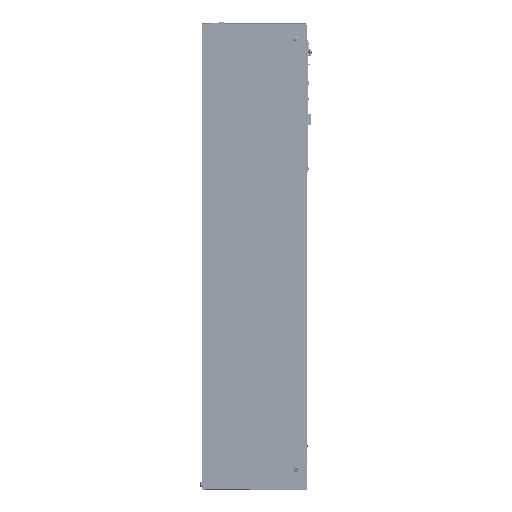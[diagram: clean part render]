
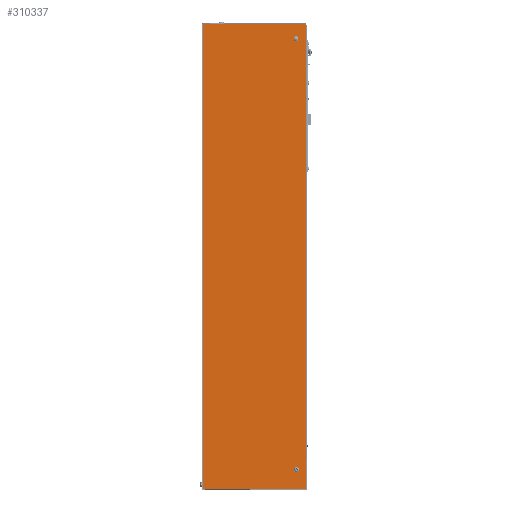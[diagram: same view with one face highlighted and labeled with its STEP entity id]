
A CAD part, top view. The second image highlights one B-rep face of the part: STEP entity #310337.
In plain terms, the highlighted planar face has unit normal (0, 0, 1).
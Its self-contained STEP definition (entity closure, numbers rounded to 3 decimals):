
#1574 = VERTEX_POINT ( 'NONE', #216408 ) ;
#4051 = VERTEX_POINT ( 'NONE', #260119 ) ;
#16707 = AXIS2_PLACEMENT_3D ( 'NONE', #418670, #224861, #564997 ) ;
#16833 = VERTEX_POINT ( 'NONE', #237093 ) ;
#17234 = CARTESIAN_POINT ( 'NONE',  ( 313.531, -428.767, 233.328 ) ) ;
#39128 = ORIENTED_EDGE ( 'NONE', *, *, #437766, .T. ) ;
#45165 = VERTEX_POINT ( 'NONE', #276948 ) ;
#59672 = DIRECTION ( 'NONE',  ( 0., 0., 1. ) ) ;
#70260 = VERTEX_POINT ( 'NONE', #313510 ) ;
#76400 = LINE ( 'NONE', #270168, #157242 ) ;
#76980 = CARTESIAN_POINT ( 'NONE',  ( 313.531, -428.767, 233.328 ) ) ;
#79512 = DIRECTION ( 'NONE',  ( 0., 1., 0. ) ) ;
#82630 = LINE ( 'NONE', #514966, #491320 ) ;
#88521 = AXIS2_PLACEMENT_3D ( 'NONE', #294872, #59672, #536595 ) ;
#88680 = ORIENTED_EDGE ( 'NONE', *, *, #154317, .F. ) ;
#90260 = CIRCLE ( 'NONE', #445499, 3.962 ) ;
#98780 = EDGE_CURVE ( 'NONE', #16833, #447122, #214202, .T. ) ;
#99688 = DIRECTION ( 'NONE',  ( -1., 0., 0. ) ) ;
#101246 = CARTESIAN_POINT ( 'NONE',  ( 315.52, 693.42, 233.328 ) ) ;
#104505 = ORIENTED_EDGE ( 'NONE', *, *, #289984, .T. ) ;
#107459 = VECTOR ( 'NONE', #117037, 1000. ) ;
#108928 = CIRCLE ( 'NONE', #88521, 3.962 ) ;
#117037 = DIRECTION ( 'NONE',  ( -1., 0., 0. ) ) ;
#127055 = EDGE_LOOP ( 'NONE', ( #609366, #461275, #88680, #189215, #190889 ) ) ;
#140521 = LINE ( 'NONE', #324968, #430090 ) ;
#149632 = VECTOR ( 'NONE', #462016, 1000. ) ;
#152568 = CARTESIAN_POINT ( 'NONE',  ( 313.531, -424.805, 233.328 ) ) ;
#154317 = EDGE_CURVE ( 'NONE', #1574, #355436, #140521, .T. ) ;
#157242 = VECTOR ( 'NONE', #416383, 1000. ) ;
#160663 = PLANE ( 'NONE',  #523578 ) ;
#161316 = EDGE_CURVE ( 'NONE', #355436, #16833, #524490, .T. ) ;
#163808 = CARTESIAN_POINT ( 'NONE',  ( 68.981, -474.305, 233.328 ) ) ;
#179395 = VERTEX_POINT ( 'NONE', #101246 ) ;
#189215 = ORIENTED_EDGE ( 'NONE', *, *, #335216, .F. ) ;
#190889 = ORIENTED_EDGE ( 'NONE', *, *, #603203, .F. ) ;
#208317 = FACE_BOUND ( 'NONE', #127055, .T. ) ;
#211001 = CARTESIAN_POINT ( 'NONE',  ( 69.743, 730.743, 233.328 ) ) ;
#212453 = LINE ( 'NONE', #552608, #107459 ) ;
#212901 = AXIS2_PLACEMENT_3D ( 'NONE', #388870, #595345, #99688 ) ;
#214202 = LINE ( 'NONE', #17234, #149632 ) ;
#216408 = CARTESIAN_POINT ( 'NONE',  ( 313.531, -420.842, 233.328 ) ) ;
#218404 = ORIENTED_EDGE ( 'NONE', *, *, #330630, .T. ) ;
#224861 = DIRECTION ( 'NONE',  ( 0., 0., 1. ) ) ;
#226787 = VECTOR ( 'NONE', #417029, 1000. ) ;
#237093 = CARTESIAN_POINT ( 'NONE',  ( 309.569, -428.767, 233.328 ) ) ;
#237972 = EDGE_LOOP ( 'NONE', ( #104505, #356105 ) ) ;
#239027 = AXIS2_PLACEMENT_3D ( 'NONE', #288762, #482723, #241181 ) ;
#241181 = DIRECTION ( 'NONE',  ( -1., 0., 0. ) ) ;
#260119 = CARTESIAN_POINT ( 'NONE',  ( 317.494, -424.805, 233.328 ) ) ;
#261322 = EDGE_LOOP ( 'NONE', ( #39128, #401368, #218404, #296074 ) ) ;
#270168 = CARTESIAN_POINT ( 'NONE',  ( 69.743, 732.719, 233.328 ) ) ;
#276948 = CARTESIAN_POINT ( 'NONE',  ( 336.951, -474.305, 233.328 ) ) ;
#288762 = CARTESIAN_POINT ( 'NONE',  ( 311.551, 693.42, 233.328 ) ) ;
#289984 = EDGE_CURVE ( 'NONE', #552380, #179395, #415683, .T. ) ;
#294872 = CARTESIAN_POINT ( 'NONE',  ( 313.531, -424.805, 233.328 ) ) ;
#295398 = EDGE_CURVE ( 'NONE', #45165, #70260, #82630, .T. ) ;
#295758 = CARTESIAN_POINT ( 'NONE',  ( 69.743, -474.305, 233.328 ) ) ;
#296074 = ORIENTED_EDGE ( 'NONE', *, *, #295398, .T. ) ;
#303597 = FACE_OUTER_BOUND ( 'NONE', #261322, .T. ) ;
#310337 = ADVANCED_FACE ( 'NONE', ( #453014, #208317, #303597 ), #160663, .F. ) ;
#313510 = CARTESIAN_POINT ( 'NONE',  ( 336.951, 730.743, 233.328 ) ) ;
#324968 = CARTESIAN_POINT ( 'NONE',  ( 309.569, -420.842, 233.328 ) ) ;
#330630 = EDGE_CURVE ( 'NONE', #559231, #45165, #474157, .T. ) ;
#335216 = EDGE_CURVE ( 'NONE', #4051, #1574, #108928, .T. ) ;
#346333 = DIRECTION ( 'NONE',  ( 0., 0., 1. ) ) ;
#355436 = VERTEX_POINT ( 'NONE', #391391 ) ;
#356105 = ORIENTED_EDGE ( 'NONE', *, *, #551223, .T. ) ;
#357573 = DIRECTION ( 'NONE',  ( -1., 0., 0. ) ) ;
#360554 = CIRCLE ( 'NONE', #239027, 3.969 ) ;
#366832 = VERTEX_POINT ( 'NONE', #211001 ) ;
#388870 = CARTESIAN_POINT ( 'NONE',  ( 311.551, 693.42, 233.328 ) ) ;
#391391 = CARTESIAN_POINT ( 'NONE',  ( 309.569, -420.842, 233.328 ) ) ;
#401368 = ORIENTED_EDGE ( 'NONE', *, *, #615364, .F. ) ;
#415683 = CIRCLE ( 'NONE', #212901, 3.969 ) ;
#416383 = DIRECTION ( 'NONE',  ( 0., 1., 0. ) ) ;
#417029 = DIRECTION ( 'NONE',  ( 1., 0., 0. ) ) ;
#418670 = CARTESIAN_POINT ( 'NONE',  ( 309.569, -424.805, 233.328 ) ) ;
#423304 = CARTESIAN_POINT ( 'NONE',  ( 68.981, -474.305, 233.328 ) ) ;
#429753 = DIRECTION ( 'NONE',  ( -1., 0., 0. ) ) ;
#430090 = VECTOR ( 'NONE', #429753, 1000. ) ;
#437766 = EDGE_CURVE ( 'NONE', #70260, #366832, #212453, .T. ) ;
#445499 = AXIS2_PLACEMENT_3D ( 'NONE', #152568, #346333, #540390 ) ;
#447122 = VERTEX_POINT ( 'NONE', #76980 ) ;
#453014 = FACE_BOUND ( 'NONE', #237972, .T. ) ;
#461275 = ORIENTED_EDGE ( 'NONE', *, *, #161316, .F. ) ;
#462016 = DIRECTION ( 'NONE',  ( 1., 0., 0. ) ) ;
#474157 = LINE ( 'NONE', #423304, #226787 ) ;
#482723 = DIRECTION ( 'NONE',  ( 0., 0., -1. ) ) ;
#491320 = VECTOR ( 'NONE', #79512, 1000. ) ;
#514966 = CARTESIAN_POINT ( 'NONE',  ( 336.951, -474.305, 233.328 ) ) ;
#523578 = AXIS2_PLACEMENT_3D ( 'NONE', #163808, #548498, #357573 ) ;
#524490 = CIRCLE ( 'NONE', #16707, 3.962 ) ;
#533603 = CARTESIAN_POINT ( 'NONE',  ( 307.583, 693.42, 233.328 ) ) ;
#536595 = DIRECTION ( 'NONE',  ( 1., 0., 0. ) ) ;
#540390 = DIRECTION ( 'NONE',  ( 1., 0., 0. ) ) ;
#548498 = DIRECTION ( 'NONE',  ( 0., 0., -1. ) ) ;
#551223 = EDGE_CURVE ( 'NONE', #179395, #552380, #360554, .T. ) ;
#552380 = VERTEX_POINT ( 'NONE', #533603 ) ;
#552608 = CARTESIAN_POINT ( 'NONE',  ( 336.951, 730.743, 233.328 ) ) ;
#559231 = VERTEX_POINT ( 'NONE', #295758 ) ;
#564997 = DIRECTION ( 'NONE',  ( 1., 0., 0. ) ) ;
#595345 = DIRECTION ( 'NONE',  ( 0., 0., -1. ) ) ;
#603203 = EDGE_CURVE ( 'NONE', #447122, #4051, #90260, .T. ) ;
#609366 = ORIENTED_EDGE ( 'NONE', *, *, #98780, .F. ) ;
#615364 = EDGE_CURVE ( 'NONE', #559231, #366832, #76400, .T. ) ;
